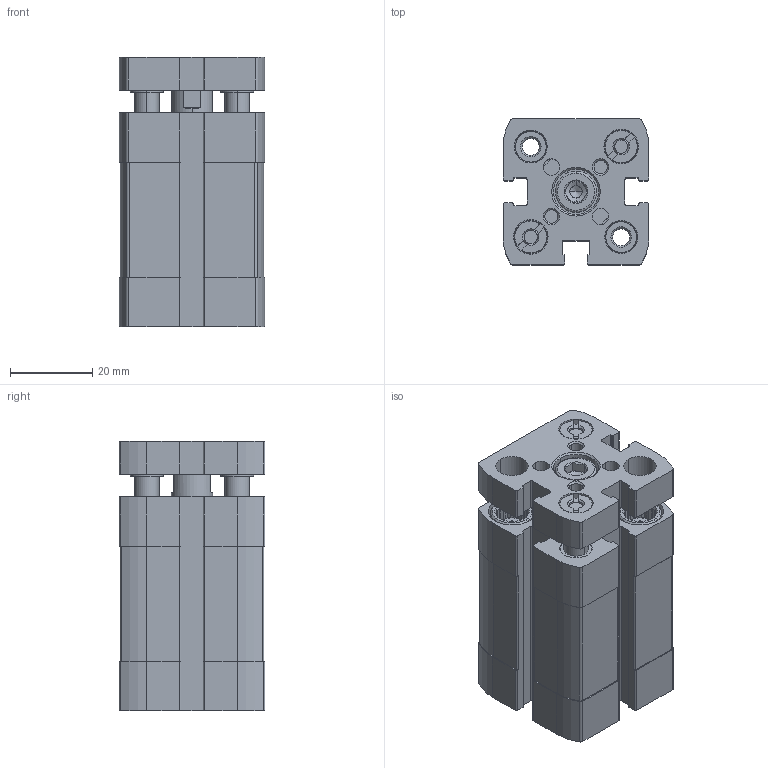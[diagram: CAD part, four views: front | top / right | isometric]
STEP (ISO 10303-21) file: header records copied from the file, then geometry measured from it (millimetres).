
FILE_DESCRIPTION (( 'STEP AP203' ), '1' );
FILE_NAME ('CCNG20-15.STEP', '2018-02-28T13:42:14', ( '' ), ( '' ), 'SwSTEP 2.0', 'SolidWorks 2016', '' );
FILE_SCHEMA (( 'CONFIG_CONTROL_DESIGN' ));
Length unit declared in the file: millimetre
Products named in the file (3): CCNG20-15-haste; CCNG20-15-corpo; CCNG20-15
Assembly tree (2 placements, depth 2):
  CCNG20-15
    CCNG20-15-corpo
    CCNG20-15-haste
Bounding box: 35.5 x 35.5 x 65.5 mm (x, y, z)
Volume: 58426.3 mm3; surface area: 28061.4 mm2
Topology: 2 solids, 6 shells, 598 faces, 1575 edges, 1025 vertices
Faces by surface type: plane 301, cylinder 214, cone 77, bspline 6
Entity records: 19170 total; most frequent: CARTESIAN_POINT 3736, DIRECTION 3263, ORIENTED_EDGE 3146, EDGE_CURVE 1573, AXIS2_PLACEMENT_3D 1226, VERTEX_POINT 1025, LINE 811, VECTOR 811
